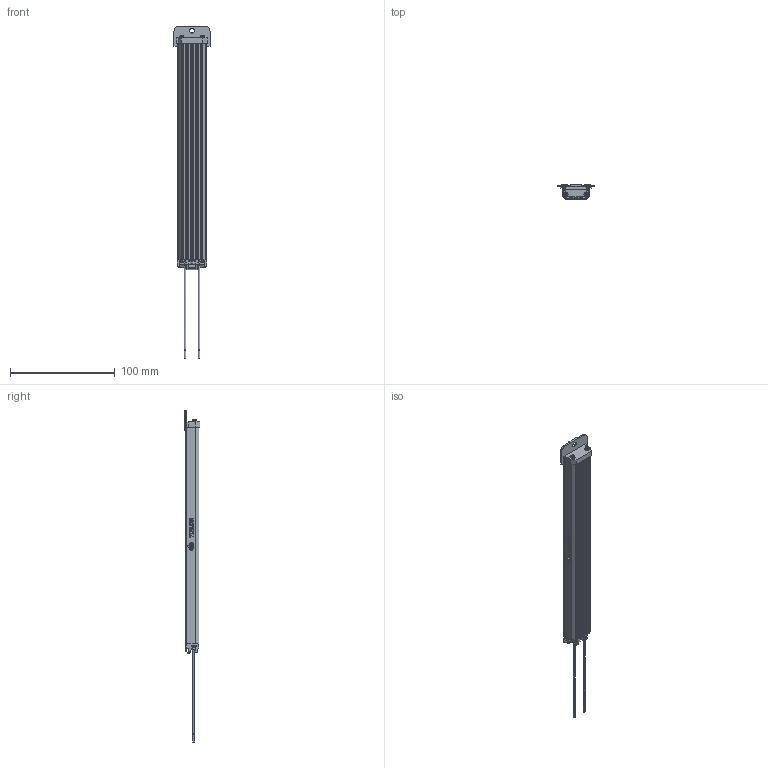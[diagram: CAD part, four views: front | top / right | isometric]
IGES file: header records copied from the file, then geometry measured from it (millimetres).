
Global section: file name: C:\CoreTechnologie\3D-in/020Y50LY0E.igs; native system: CT CoreTechnologie 3D Evolution; preprocessor: 2006; date: 1181013.083317; units: millimetre
Bounding box: 34.4 x 15.15 x 316.25 mm (x, y, z)
Volume: 39645.8 mm3; surface area: 50506.3 mm2
Topology: 38 solids, 38 shells, 1436 faces, 3758 edges, 2502 vertices
Faces by surface type: plane 1177, revolution 223, bspline 36
